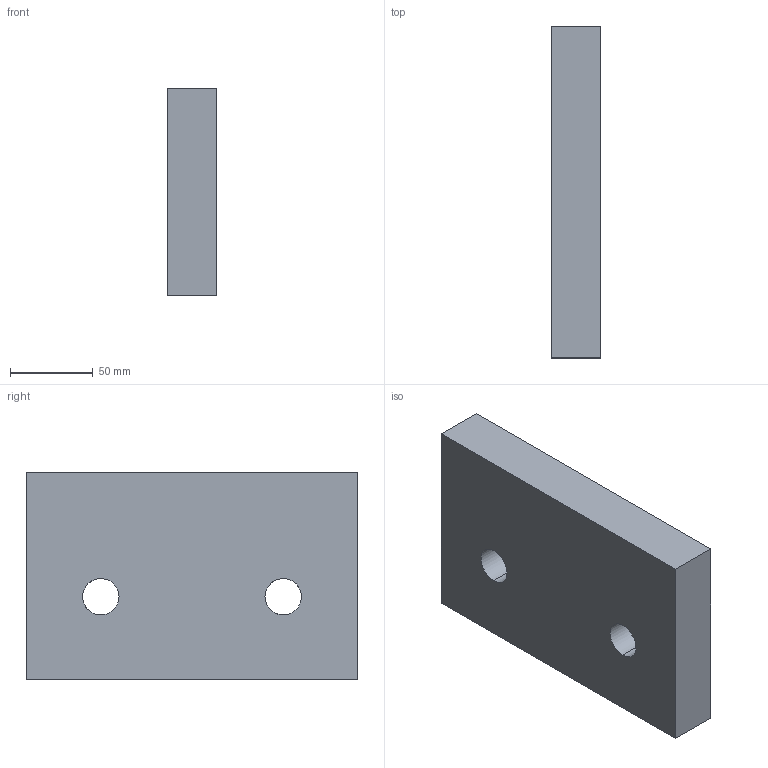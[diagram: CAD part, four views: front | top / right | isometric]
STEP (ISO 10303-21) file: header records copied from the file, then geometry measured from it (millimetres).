
FILE_DESCRIPTION(('CATIA V5 STEP Exchange'),'2;1');
FILE_NAME('C:\Users\Raffaele\Desktop\3D X SITO CF\A612\A611-125-200\A612-125-200.stp','2019-07-12T13:08:43+00:00',('none'),('none'),'CATIA Version 5 Release 20 GA (IN-10)','CATIA V5 STEP AP203','none');
FILE_SCHEMA(('CONFIG_CONTROL_DESIGN'));
Length unit declared in the file: millimetre
Products named in the file (1): A612-125-200
Bounding box: 30 x 200 x 125 mm (x, y, z)
Volume: 727192 mm3; surface area: 72126.4 mm2
Topology: 1 solids, 1 shells, 10 faces, 32 edges, 24 vertices
Faces by surface type: plane 6, cylinder 4
Entity records: 506 total; most frequent: CARTESIAN_POINT 179, ORIENTED_EDGE 64, DIRECTION 44, EDGE_CURVE 32, VERTEX_POINT 24, AXIS2_PLACEMENT_3D 19, VECTOR 16, LINE 16
